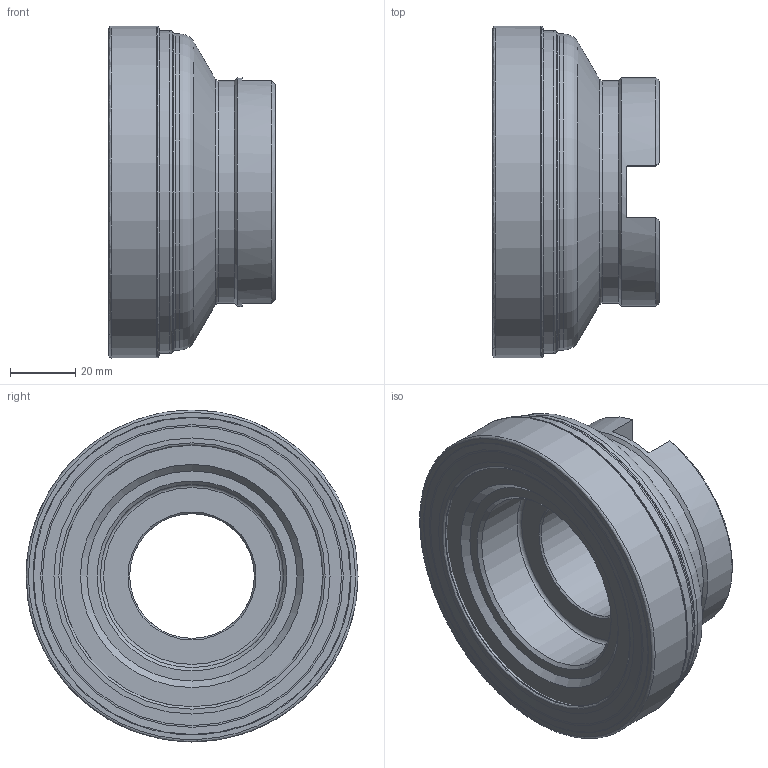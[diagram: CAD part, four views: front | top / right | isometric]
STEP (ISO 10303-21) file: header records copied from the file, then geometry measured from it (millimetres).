
FILE_DESCRIPTION(/* description */ (''),/* implementation_level */ '2;1');
FILE_NAME(/* name */ 'emp13-4.00''''-b1.50''''-an15-08.stp',/* time_stamp */ '2021-06-17T15:32:26+08:00',/* author */ (''),/* organization */ (''),/* preprocessor_version */ 'ST-DEVELOPER v16.7',/* originating_system */ 'SIEMENS PLM Software NX 12.0',/* authorisation */ '');
FILE_SCHEMA (('AUTOMOTIVE_DESIGN { 1 0 10303 214 3 1 1 1 }'));
Length unit declared in the file: millimetre
Products named in the file (1): liuj1E246CBAu08e
Bounding box: 50.8 x 101.45 x 101.45 mm (x, y, z)
Volume: 242143.5 mm3; surface area: 45068.2 mm2
Topology: 2 solids, 2 shells, 70 faces, 167 edges, 101 vertices
Faces by surface type: revolution 21, plane 18, cone 13, cylinder 10, torus 8
Full cylindrical faces by diameter (mm): 38.1 x1, 56 x1, 68 x1, 70 x1, 96.6 x1, 98.6 x1
Entity records: 2141 total; most frequent: CARTESIAN_POINT 781, DIRECTION 255, ORIENTED_EDGE 218, EDGE_LOOP 116, EDGE_CURVE 109, AXIS2_PLACEMENT_3D 105, FACE_BOUND 92, VERTEX_POINT 85
